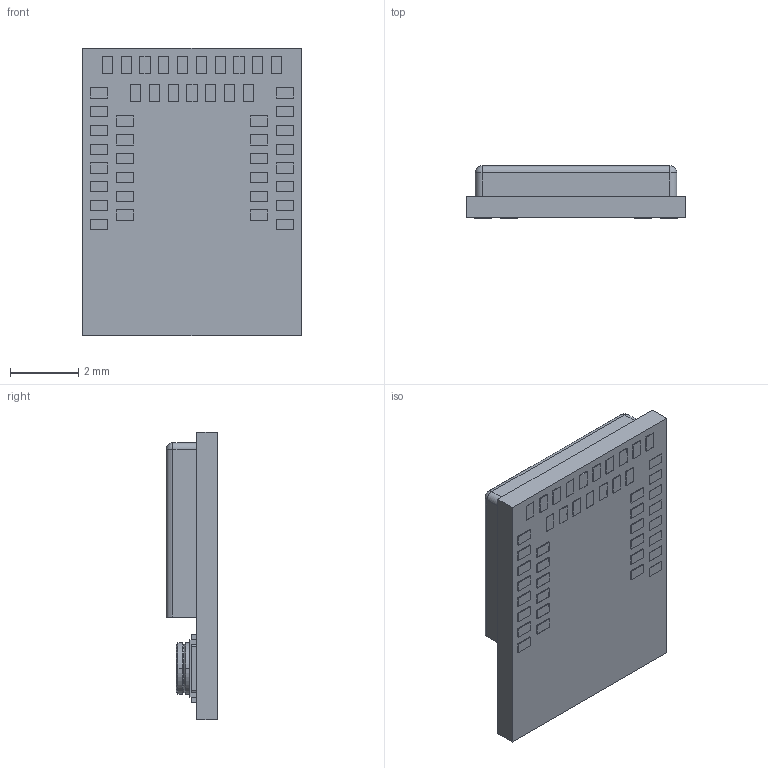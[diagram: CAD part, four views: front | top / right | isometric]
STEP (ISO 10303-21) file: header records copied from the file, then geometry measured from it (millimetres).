
FILE_DESCRIPTION((''),'2;1');
FILE_NAME('01-03-AN54LV-U15_ASM','2025-11-18T21:47:32',('curt_Chen'),(''),'CREO PARAMETRIC BY PTC INC, 2024063','CREO PARAMETRIC BY PTC INC, 2024063','');
FILE_SCHEMA(('AUTOMOTIVE_DESIGN { 1 0 10303 214 1 1 1 1 }'));
Length unit declared in the file: millimetre
Products named in the file (4): 02-03-PCB-AN54LV-U15; 02-UFL_20579C16; 02-EMI-SHEILDING; 01-03-AN54LV-U15_ASM
Assembly tree (3 placements, depth 2):
  01-03-AN54LV-U15_ASM
    02-03-PCB-AN54LV-U15
    02-UFL_20579C16
    02-EMI-SHEILDING
Bounding box: 6.4 x 1.52 x 8.4 mm (x, y, z)
Volume: 41.7 mm3; surface area: 226 mm2
Topology: 3 solids, 3 shells, 306 faces, 911 edges, 840 vertices
Faces by surface type: plane 273, cylinder 22, cone 8, sphere 3
Entity records: 13011 total; most frequent: CARTESIAN_POINT 1774, DIRECTION 1685, ORIENTED_EDGE 1462, VECTOR 863, LINE 863, PRESENTATION_STYLE_ASSIGNMENT 785, STYLED_ITEM 740, CURVE_STYLE 739
